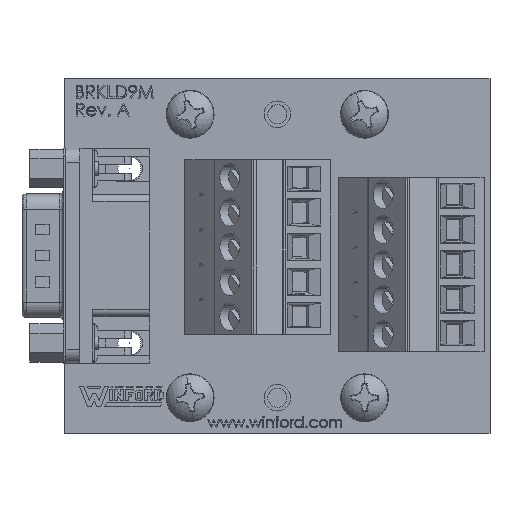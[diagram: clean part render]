
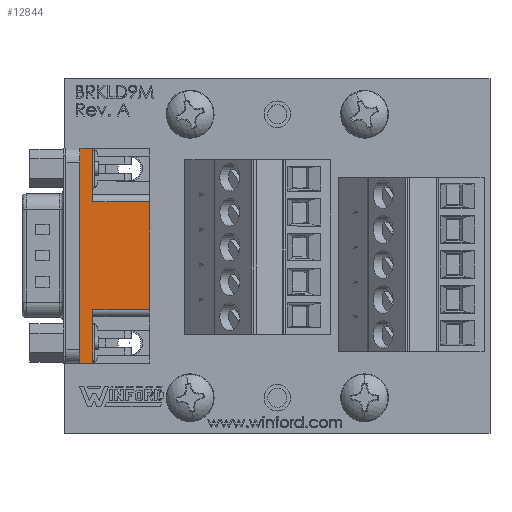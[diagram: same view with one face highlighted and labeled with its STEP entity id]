
A CAD part, top view. The second image highlights one B-rep face of the part: STEP entity #12844.
In plain terms, the highlighted planar face has unit normal (0, 0, 1) as drawn and (0, 1, 0) by its records, which use the part's own axes.
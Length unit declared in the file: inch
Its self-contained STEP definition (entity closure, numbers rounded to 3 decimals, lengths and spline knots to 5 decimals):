
#4808 = ORIENTED_EDGE ( 'NONE', *, *, #64573, .F. ) ;
#5031 = DIRECTION ( 'NONE',  ( 0., 1., 0. ) ) ;
#5426 = DIRECTION ( 'NONE',  ( 0., 0., 1. ) ) ;
#7299 = VECTOR ( 'NONE', #25407, 39.37008 ) ;
#8976 = CARTESIAN_POINT ( 'NONE',  ( 0.30413, 0.16142, 0.24213 ) ) ;
#12367 = VERTEX_POINT ( 'NONE', #103764 ) ;
#12844 = ADVANCED_FACE ( 'NONE', ( #14415 ), #54108, .T. ) ;
#14415 = FACE_OUTER_BOUND ( 'NONE', #48562, .T. ) ;
#15271 = DIRECTION ( 'NONE',  ( 1., 0., 0. ) ) ;
#16929 = VERTEX_POINT ( 'NONE', #70029 ) ;
#18347 = CARTESIAN_POINT ( 'NONE',  ( 0.30413, 0.16142, 0.24213 ) ) ;
#18369 = ORIENTED_EDGE ( 'NONE', *, *, #96088, .T. ) ;
#19123 = VECTOR ( 'NONE', #123260, 39.37008 ) ;
#19626 = LINE ( 'NONE', #108062, #66706 ) ;
#21254 = ORIENTED_EDGE ( 'NONE', *, *, #119935, .T. ) ;
#24419 = CARTESIAN_POINT ( 'NONE',  ( 0.30413, 0.16142, 0.16929 ) ) ;
#24919 = DIRECTION ( 'NONE',  ( 0., 0., 1. ) ) ;
#24954 = LINE ( 'NONE', #73285, #125126 ) ;
#25407 = DIRECTION ( 'NONE',  ( 0., 0., -1. ) ) ;
#28463 = EDGE_CURVE ( 'NONE', #58133, #113582, #77161, .T. ) ;
#28661 = LINE ( 'NONE', #30682, #107571 ) ;
#29252 = DIRECTION ( 'NONE',  ( 1., 0., 0. ) ) ;
#29835 = DIRECTION ( 'NONE',  ( 0., 0., -1. ) ) ;
#30682 = CARTESIAN_POINT ( 'NONE',  ( -0.6065, 0.16142, 0. ) ) ;
#31775 = ORIENTED_EDGE ( 'NONE', *, *, #39808, .T. ) ;
#34413 = LINE ( 'NONE', #45333, #7299 ) ;
#35030 = CARTESIAN_POINT ( 'NONE',  ( -0.30413, 0.16142, 0.16929 ) ) ;
#39808 = EDGE_CURVE ( 'NONE', #45508, #79298, #57033, .T. ) ;
#43120 = ORIENTED_EDGE ( 'NONE', *, *, #28463, .F. ) ;
#44881 = VECTOR ( 'NONE', #24919, 39.37008 ) ;
#45333 = CARTESIAN_POINT ( 'NONE',  ( 0.30413, 0.16142, 0.16929 ) ) ;
#45508 = VERTEX_POINT ( 'NONE', #62370 ) ;
#45583 = EDGE_CURVE ( 'NONE', #58133, #99276, #34413, .T. ) ;
#48423 = ORIENTED_EDGE ( 'NONE', *, *, #45583, .T. ) ;
#48562 = EDGE_LOOP ( 'NONE', ( #21254, #4808, #85255, #106307, #31775, #18369, #43120, #48423 ) ) ;
#48745 = CARTESIAN_POINT ( 'NONE',  ( 0.6065, 0.16142, 0.16929 ) ) ;
#52422 = LINE ( 'NONE', #65125, #44881 ) ;
#54108 = PLANE ( 'NONE',  #56864 ) ;
#56864 = AXIS2_PLACEMENT_3D ( 'NONE', #24419, #5031, #5426 ) ;
#57033 = LINE ( 'NONE', #18347, #99420 ) ;
#58133 = VERTEX_POINT ( 'NONE', #67790 ) ;
#62370 = CARTESIAN_POINT ( 'NONE',  ( -0.6065, 0.16142, 0.24213 ) ) ;
#63796 = CARTESIAN_POINT ( 'NONE',  ( -0.30413, 0.16142, 0.56299 ) ) ;
#64563 = VERTEX_POINT ( 'NONE', #48745 ) ;
#64573 = EDGE_CURVE ( 'NONE', #64563, #12367, #52422, .T. ) ;
#65125 = CARTESIAN_POINT ( 'NONE',  ( 0.6065, 0.16142, 0. ) ) ;
#65854 = DIRECTION ( 'NONE',  ( 1., 0., 0. ) ) ;
#66706 = VECTOR ( 'NONE', #29252, 39.37008 ) ;
#67790 = CARTESIAN_POINT ( 'NONE',  ( 0.30413, 0.16142, 0.56299 ) ) ;
#70029 = CARTESIAN_POINT ( 'NONE',  ( -0.6065, 0.16142, 0.16929 ) ) ;
#73285 = CARTESIAN_POINT ( 'NONE',  ( 0.30413, 0.16142, 0.24213 ) ) ;
#77161 = LINE ( 'NONE', #106940, #125785 ) ;
#79298 = VERTEX_POINT ( 'NONE', #105273 ) ;
#80514 = EDGE_CURVE ( 'NONE', #16929, #64563, #19626, .T. ) ;
#85255 = ORIENTED_EDGE ( 'NONE', *, *, #80514, .F. ) ;
#96088 = EDGE_CURVE ( 'NONE', #79298, #113582, #116157, .T. ) ;
#99276 = VERTEX_POINT ( 'NONE', #8976 ) ;
#99420 = VECTOR ( 'NONE', #65854, 39.37008 ) ;
#103764 = CARTESIAN_POINT ( 'NONE',  ( 0.6065, 0.16142, 0.24213 ) ) ;
#105273 = CARTESIAN_POINT ( 'NONE',  ( -0.30413, 0.16142, 0.24213 ) ) ;
#106307 = ORIENTED_EDGE ( 'NONE', *, *, #111697, .F. ) ;
#106940 = CARTESIAN_POINT ( 'NONE',  ( 0., 0.16142, 0.56299 ) ) ;
#107571 = VECTOR ( 'NONE', #29835, 39.37008 ) ;
#108062 = CARTESIAN_POINT ( 'NONE',  ( 0., 0.16142, 0.16929 ) ) ;
#111697 = EDGE_CURVE ( 'NONE', #45508, #16929, #28661, .T. ) ;
#113582 = VERTEX_POINT ( 'NONE', #63796 ) ;
#116157 = LINE ( 'NONE', #35030, #19123 ) ;
#117148 = DIRECTION ( 'NONE',  ( -1., 0., 0. ) ) ;
#119935 = EDGE_CURVE ( 'NONE', #99276, #12367, #24954, .T. ) ;
#123260 = DIRECTION ( 'NONE',  ( 0., 0., 1. ) ) ;
#125126 = VECTOR ( 'NONE', #15271, 39.37008 ) ;
#125785 = VECTOR ( 'NONE', #117148, 39.37008 ) ;
